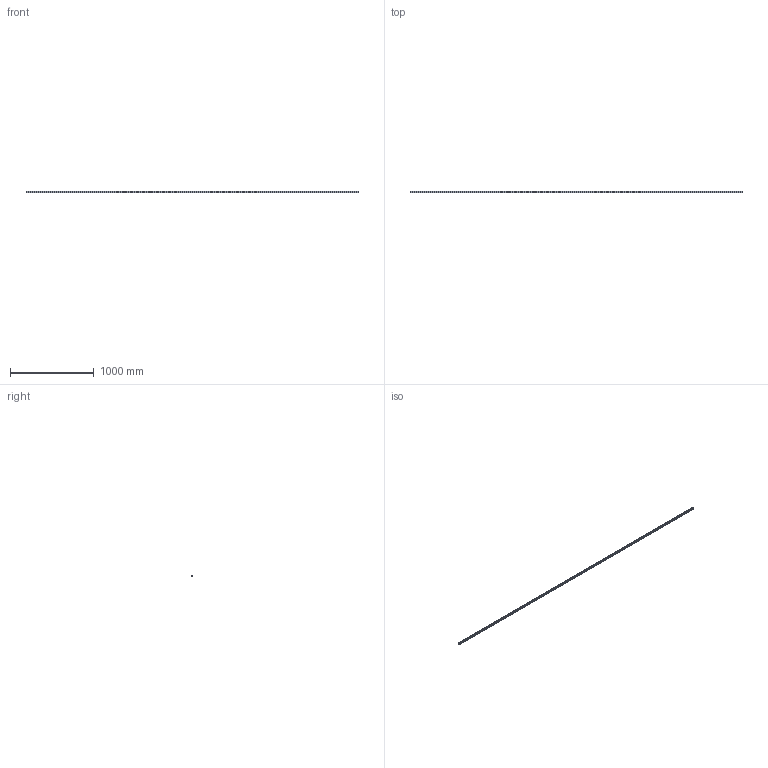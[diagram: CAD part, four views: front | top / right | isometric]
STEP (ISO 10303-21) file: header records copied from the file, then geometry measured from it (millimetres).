
FILE_DESCRIPTION (( 'STEP AP203' ), '1' );
FILE_NAME ('L1018.20R-3960.step', '2023-08-06T09:20:25', ( '' ), ( '' ), 'SwSTEP 2.0', 'SolidWorks 2019', '' );
FILE_SCHEMA (( 'CONFIG_CONTROL_DESIGN' ));
Length unit declared in the file: millimetre
Products named in the file (1): L1018.20R-3960
Bounding box: 3960 x 19.3 x 20 mm (x, y, z)
Volume: 1255827.9 mm3; surface area: 334844 mm2
Topology: 1 solids, 1 shells, 623 faces, 1401 edges, 780 vertices
Faces by surface type: cylinder 267, cone 264, plane 92
Entity records: 16442 total; most frequent: DIRECTION 3183, CARTESIAN_POINT 2673, ORIENTED_EDGE 2538, AXIS2_PLACEMENT_3D 1290, EDGE_CURVE 1269, VERTEX_POINT 780, EDGE_LOOP 755, CIRCLE 666
